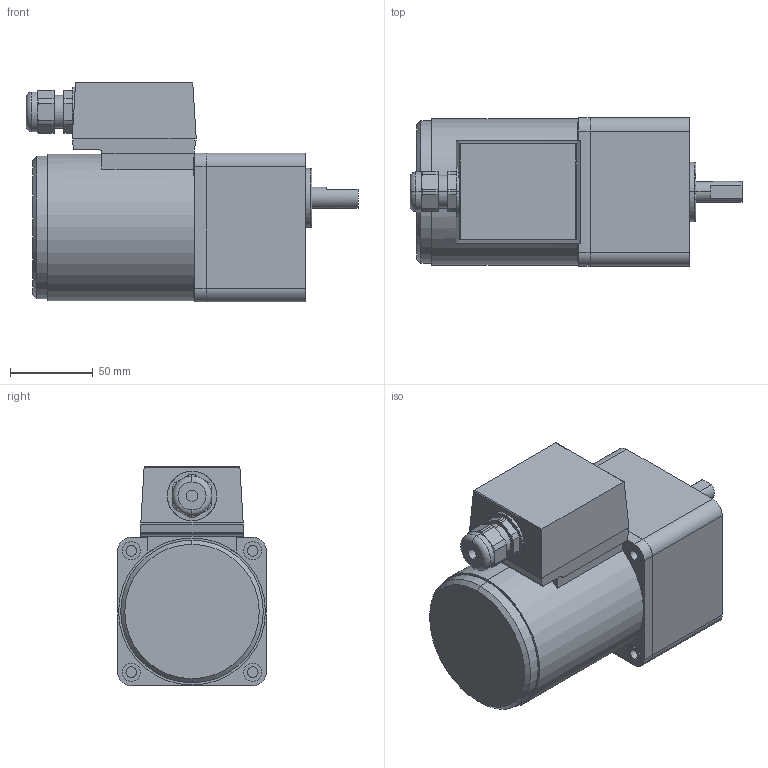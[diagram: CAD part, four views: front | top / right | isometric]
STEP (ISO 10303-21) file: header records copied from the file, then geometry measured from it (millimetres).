
FILE_DESCRIPTION(('starvars output'),'2;1');
FILE_NAME('5RK40GN-CW2TE _ 5GN30SA.stp','13:46:41 2015/05/11',( 'Thomas Industrial Network Germany GmbH'),( 'Thomas Industrial Network Germany GmbH'),'unknown preprocess','ACIS' ,'unknown authorization');
FILE_SCHEMA(('AUTOMOTIVE_DESIGN_CC2 {UNKNOWN IMPLEMENTATION LEVEL}'));
Length unit declared in the file: millimetre
Products named in the file (1): PRODUCT_ID_2173
Bounding box: 201.12 x 90 x 133 mm (x, y, z)
Volume: 1344586 mm3; surface area: 92430 mm2
Topology: 1 solids, 1 shells, 162 faces, 392 edges, 256 vertices
Faces by surface type: plane 74, cylinder 74, torus 12, cone 2
Entity records: 5696 total; most frequent: CARTESIAN_POINT 847, ORIENTED_EDGE 784, DIRECTION 638, EDGE_CURVE 392, VERTEX_POINT 256, AXIS2_PLACEMENT_3D 215, VECTOR 208, LINE 208
